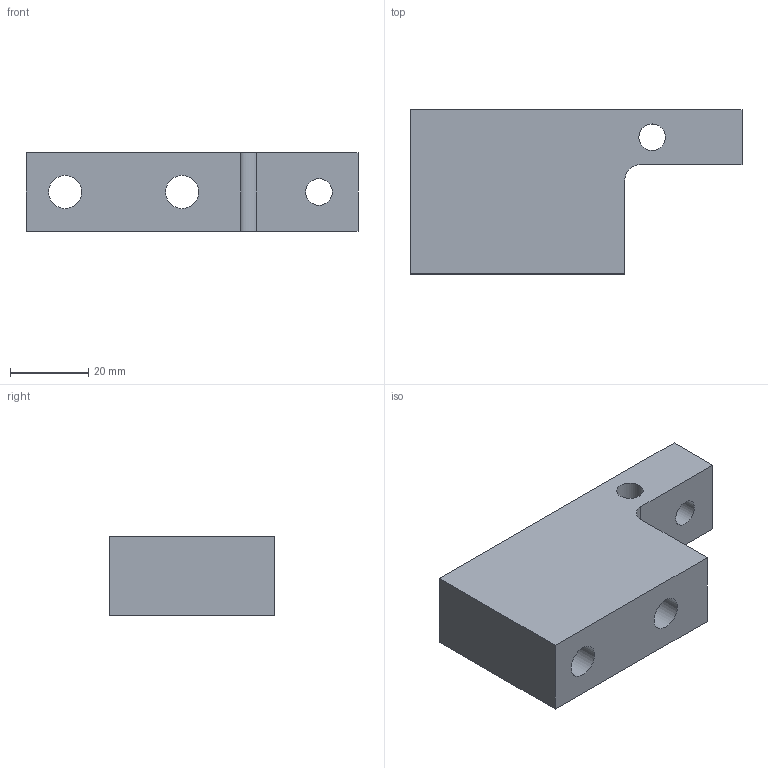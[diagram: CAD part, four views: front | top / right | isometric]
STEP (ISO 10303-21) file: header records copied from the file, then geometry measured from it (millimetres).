
FILE_DESCRIPTION(/* description */ (''),/* implementation_level */ '2;1');
FILE_NAME(/* name */ '044_bloc_antirib.stp',/* time_stamp */ '2020-01-08T15:45:16+01:00',/* author */ (''),/* organization */ (''),/* preprocessor_version */ 'ST-DEVELOPER v16.7',/* originating_system */ 'SIEMENS PLM Software NX 12.0',/* authorisation */ '');
FILE_SCHEMA (('AUTOMOTIVE_DESIGN { 1 0 10303 214 3 1 1 1 }'));
Length unit declared in the file: millimetre
Products named in the file (1): bez2C70411Cqd73
Bounding box: 85 x 42 x 20 mm (x, y, z)
Volume: 45751.5 mm3; surface area: 13628.1 mm2
Topology: 1 solids, 1 shells, 17 faces, 41 edges, 28 vertices
Faces by surface type: plane 10, cylinder 7
Full cylindrical faces by diameter (mm): 6.8 x2, 8.5 x2, 14 x2
Entity records: 505 total; most frequent: DIRECTION 83, CARTESIAN_POINT 77, ORIENTED_EDGE 66, EDGE_LOOP 33, EDGE_CURVE 33, AXIS2_PLACEMENT_3D 32, FACE_BOUND 29, VERTEX_POINT 26
